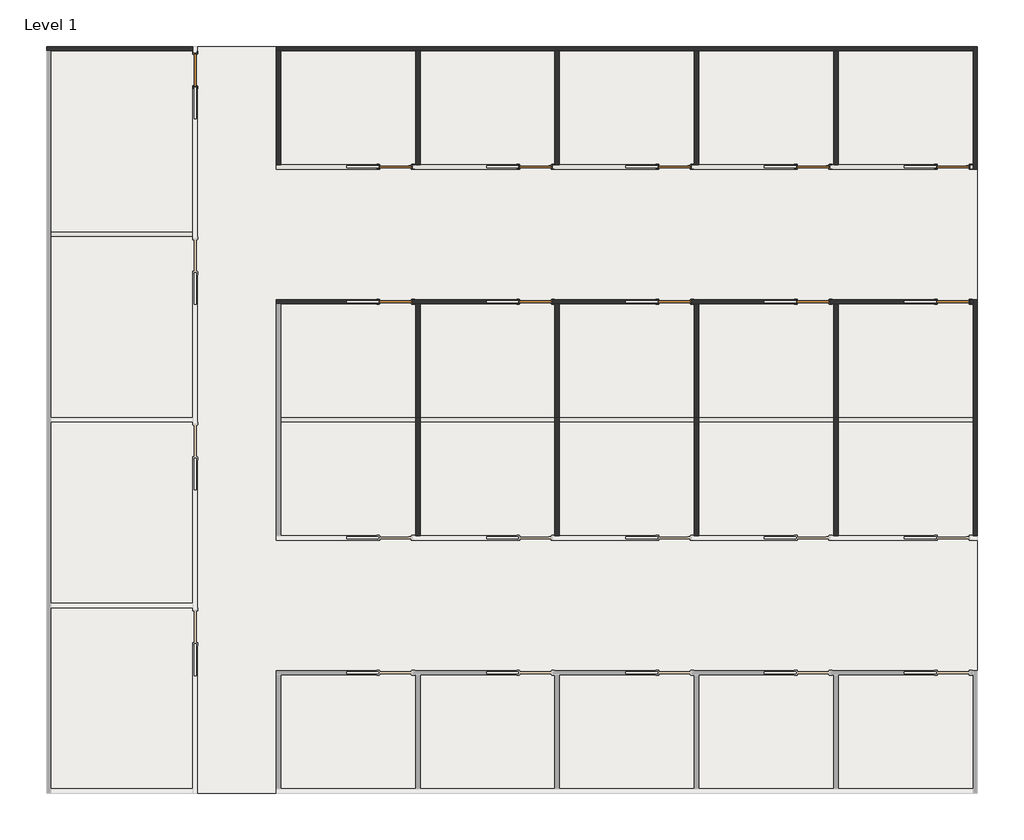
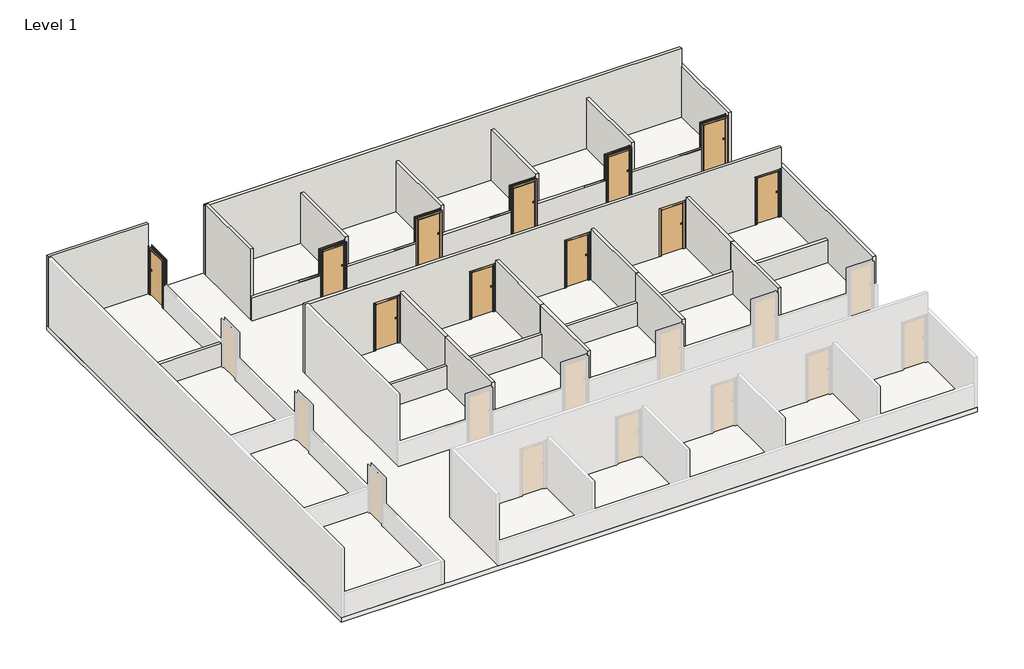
# One storey, part 2 of 2: 21 walls, 11 doors, 1 slab.
"""IFC4 building model written with IfcOpenShell, lengths in millimetres."""

from ifc_helpers import new_model, si_unit, frame, origin, origin_with_axes, place, context, project, spatial, polyline, outline, extrude, faceted_brep, transform, mapped, element, save
from components import door_cd230160, door_3eefad80

model = new_model("IFC4")

# Units and contexts
model_context = context("Model", 3, world=origin())
ifc_project = project(units=[si_unit("LENGTHUNIT", "METRE", prefix="MILLI")], contexts=[model_context])

# Site, building, storey
site = spatial("IfcSite", under=ifc_project)
building = spatial("IfcBuilding", under=site)
storey = spatial("IfcBuildingStorey", under=building, Name="Level 1", Elevation=0.0)

# Doors
placement = place(None, origin())
door_shape = door_cd230160(model_context)
element("IfcDoor", 1, ObjectType="DoorInternal_Barausse_Feel Plus Sliding wall-125+x : Int_Door_Barausse_Feel-Plus-Sliding_900x2000_Wall-125+x", at=placement, inside=storey, context=model_context, shape_type="MappedRepresentation", body=[
    mapped(door_shape, transform((-20299.5068022, 12818.8853962, 0.0), x_axis=(0.0, 1.0, 0.0), y_axis=(-1.0, 0.0, 0.0), z_axis=(0.0, 0.0, 1.0))),
])
element("IfcDoor", 2, ObjectType="DoorInternal_Barausse_Feel Plus Sliding wall-125+x : Int_Door_Barausse_Feel-Plus-Sliding_900x2000_Wall-125+x", at=placement, inside=storey, context=model_context, shape_type="MappedRepresentation", body=[
    mapped(door_shape, transform((-10714.5068022, 6293.8853962, 0.0), x_axis=(1.0, 0.0, 0.0), y_axis=(0.0, 1.0, 0.0), z_axis=(0.0, 0.0, 1.0))),
])
element("IfcDoor", 3, ObjectType="DoorInternal_Barausse_Feel Plus Sliding wall-125+x : Int_Door_Barausse_Feel-Plus-Sliding_900x2000_Wall-125+x", at=placement, inside=storey, context=model_context, shape_type="MappedRepresentation", body=[
    mapped(door_shape, transform((-6794.5068022, 6293.8853962, 0.0), x_axis=(1.0, 0.0, 0.0), y_axis=(0.0, 1.0, 0.0), z_axis=(0.0, 0.0, 1.0))),
])
element("IfcDoor", 4, ObjectType="DoorInternal_Barausse_Feel Plus Sliding wall-125+x : Int_Door_Barausse_Feel-Plus-Sliding_900x2000_Wall-125+x", at=placement, inside=storey, context=model_context, shape_type="MappedRepresentation", body=[
    mapped(door_shape, transform((1050.4931978, 6293.8853962, 0.0), x_axis=(1.0, 0.0, 0.0), y_axis=(0.0, 1.0, 0.0), z_axis=(0.0, 0.0, 1.0))),
])
element("IfcDoor", 5, ObjectType="DoorInternal_Barausse_Feel Plus Sliding wall-125+x : Int_Door_Barausse_Feel-Plus-Sliding_900x2000_Wall-125+x", at=placement, inside=storey, context=model_context, shape_type="MappedRepresentation", body=[
    mapped(door_shape, transform((-14654.5068022, 10093.8853962, 0.0), x_axis=(1.0, 0.0, 0.0), y_axis=(0.0, 1.0, 0.0), z_axis=(0.0, 0.0, 1.0))),
])
element("IfcDoor", 6, ObjectType="DoorInternal_Barausse_Feel Plus Sliding wall-125+x : Int_Door_Barausse_Feel-Plus-Sliding_900x2000_Wall-125+x", at=placement, inside=storey, context=model_context, shape_type="MappedRepresentation", body=[
    mapped(door_shape, transform((-10714.5068022, 10093.8853962, 0.0), x_axis=(1.0, 0.0, 0.0), y_axis=(0.0, 1.0, 0.0), z_axis=(0.0, 0.0, 1.0))),
])
element("IfcDoor", 7, ObjectType="DoorInternal_Barausse_Feel Plus Sliding wall-125+x : Int_Door_Barausse_Feel-Plus-Sliding_900x2000_Wall-125+x", at=placement, inside=storey, context=model_context, shape_type="MappedRepresentation", body=[
    mapped(door_shape, transform((-6794.5068022, 10093.8853962, 0.0), x_axis=(1.0, 0.0, 0.0), y_axis=(0.0, 1.0, 0.0), z_axis=(0.0, 0.0, 1.0))),
])
element("IfcDoor", 8, ObjectType="DoorInternal_Barausse_Feel Plus Sliding wall-125+x : Int_Door_Barausse_Feel-Plus-Sliding_900x2000_Wall-125+x", at=placement, inside=storey, context=model_context, shape_type="MappedRepresentation", body=[
    mapped(door_shape, transform((1050.4931978, 10093.8853962, 0.0), x_axis=(1.0, 0.0, 0.0), y_axis=(0.0, 1.0, 0.0), z_axis=(0.0, 0.0, 1.0))),
])
door_2_shape = door_3eefad80(model_context)
element("IfcDoor", 9, ObjectType="DoorInternal_Barausse_Feel Plus Sliding wall-125+x : Int_Door_Barausse_Feel-Plus-Sliding_900x2000_Wall-125+x", at=placement, inside=storey, context=model_context, shape_type="MappedRepresentation", body=[
    mapped(door_2_shape, transform((-14654.5068022, 6293.8853962, 0.0), x_axis=(1.0, 0.0, 0.0), y_axis=(0.0, 1.0, 0.0), z_axis=(0.0, 0.0, 1.0))),
])
element("IfcDoor", 10, ObjectType="DoorInternal_Barausse_Feel Plus Sliding wall-125+x : Int_Door_Barausse_Feel-Plus-Sliding_900x2000_Wall-125+x", at=placement, inside=storey, context=model_context, shape_type="MappedRepresentation", body=[
    mapped(door_2_shape, transform((-2894.5068022, 6293.8853962, 0.0), x_axis=(1.0, 0.0, 0.0), y_axis=(0.0, 1.0, 0.0), z_axis=(0.0, 0.0, 1.0))),
])
element("IfcDoor", 11, ObjectType="DoorInternal_Barausse_Feel Plus Sliding wall-125+x : Int_Door_Barausse_Feel-Plus-Sliding_900x2000_Wall-125+x", at=placement, inside=storey, context=model_context, shape_type="MappedRepresentation", body=[
    mapped(door_2_shape, transform((-2894.5068022, 10093.8853962, 0.0), x_axis=(1.0, 0.0, 0.0), y_axis=(0.0, 1.0, 0.0), z_axis=(0.0, 0.0, 1.0))),
])

# Slab
element("IfcSlab", 12, ObjectType="Floor 150mm", at=placement, inside=storey, context=model_context, shape_type="SweptSolid", body=[
    extrude(outline(polyline([(-24487.0068022, -7543.6146038), (-24487.0068022, 13481.3853962), (1732.9931978, 13481.3853962), (1732.9931978, -7543.6146038), (-24487.0068022, -7543.6146038)])), frame((0.0, 0.0, -200.0), z_axis=(0.0, 0.0, 1.0), x_axis=(1.0, 0.0, 0.0)), (0.0, 0.0, 1.0), 200.0),
])

# Walls
element("IfcWall", 13, ObjectType="Wall 125mm", at=placement, inside=storey, context=model_context, shape_type="SweptSolid", body=[
    extrude(outline(polyline([(-20362.0068022, 8131.3853962), (-24362.0068022, 8131.3853962), (-24362.0068022, 8256.3853962), (-20362.0068022, 8256.3853962), (-20362.0068022, 8131.3853962)])), origin_with_axes(), (0.0, 0.0, 1.0), 1000.0),
])
element("IfcWall", 14, ObjectType="Wall 125mm", at=placement, inside=storey, context=model_context, shape_type="Brep", body=[
    faceted_brep([(-24487.0068022, 13356.3853962, 0.0), (-24362.0068022, 13356.3853962, 0.0), (-20362.0068022, 13356.3853962, 0.0), (-20362.0068022, 13356.3853962, 3048.0), (-24487.0068022, 13356.3853962, 3048.0), (-24487.0068022, 13356.3853962, 3000.0), (-24487.0068022, 13481.3853962, 0.0), (-24487.0068022, 13481.3853962, 3048.0), (-20362.0068022, 13481.3853962, 3048.0), (-20362.0068022, 13481.3853962, 1000.0), (-20362.0068022, 13481.3853962, 0.0)], [[[0, 1, 2, 3, 4, 5]], [[6, 7, 8, 9, 10]], [[2, 1, 0, 6, 10]], [[4, 3, 8, 7]], [[0, 5, 4, 7, 6]], [[3, 2, 10, 9, 8]]]),
])
element("IfcWall", 15, ObjectType="Wall 125mm", at=placement, inside=storey, context=model_context, shape_type="Brep", body=[
    faceted_brep([(1607.9931978, 6231.3853962, 3000.0), (-18017.0068022, 6231.3853962, 3000.0), (-18017.0068022, 6231.3853962, 0.0), (-17892.0068022, 6231.3853962, 0.0), (-15131.0568022, 6231.3853962, 0.0), (-15131.0568022, 6231.3853962, 2035.2), (-14177.9568022, 6231.3853962, 2035.2), (-14177.9568022, 6231.3853962, 0.0), (-14092.0068022, 6231.3853962, 0.0), (-13967.0068022, 6231.3853962, 0.0), (-11191.0568022, 6231.3853962, 0.0), (-11191.0568022, 6231.3853962, 2035.2), (-10237.9568022, 6231.3853962, 2035.2), (-10237.9568022, 6231.3853962, 0.0), (-10167.0068022, 6231.3853962, 0.0), (-10042.0068022, 6231.3853962, 0.0), (-7271.0568022, 6231.3853962, 0.0), (-7271.0568022, 6231.3853962, 2035.2), (-6317.9568022, 6231.3853962, 2035.2), (-6317.9568022, 6231.3853962, 0.0), (-6242.0068022, 6231.3853962, 0.0), (-6117.0068022, 6231.3853962, 0.0), (-3371.0568022, 6231.3853962, 0.0), (-3371.0568022, 6231.3853962, 2035.2), (-2417.9568022, 6231.3853962, 2035.2), (-2417.9568022, 6231.3853962, 0.0), (-2317.0068022, 6231.3853962, 0.0), (-2192.0068022, 6231.3853962, 0.0), (573.9431978, 6231.3853962, 0.0), (573.9431978, 6231.3853962, 2035.2), (1527.0431978, 6231.3853962, 2035.2), (1527.0431978, 6231.3853962, 0.0), (1607.9931978, 6231.3853962, 0.0), (-18017.0068022, 6356.3853962, 3000.0), (1607.9931978, 6356.3853962, 3000.0), (1607.9931978, 6356.3853962, 2200.0), (1607.9931978, 6356.3853962, 0.0), (1527.0431978, 6356.3853962, 0.0), (1527.0431978, 6356.3853962, 2035.2), (573.9431978, 6356.3853962, 2035.2), (573.9431978, 6356.3853962, 0.0), (-2417.9568022, 6356.3853962, 0.0), (-2417.9568022, 6356.3853962, 2035.2), (-3371.0568022, 6356.3853962, 2035.2), (-3371.0568022, 6356.3853962, 0.0), (-6317.9568022, 6356.3853962, 0.0), (-6317.9568022, 6356.3853962, 2035.2), (-7271.0568022, 6356.3853962, 2035.2), (-7271.0568022, 6356.3853962, 0.0), (-10237.9568022, 6356.3853962, 0.0), (-10237.9568022, 6356.3853962, 2035.2), (-11191.0568022, 6356.3853962, 2035.2), (-11191.0568022, 6356.3853962, 0.0), (-14177.9568022, 6356.3853962, 0.0), (-14177.9568022, 6356.3853962, 2035.2), (-15131.0568022, 6356.3853962, 2035.2), (-15131.0568022, 6356.3853962, 0.0), (-18017.0068022, 6356.3853962, 0.0), (-15131.0568022, 6332.8853955, 0.0), (-16045.0568022, 6332.8853955, 0.0), (-16045.0568022, 6254.3853962, 0.0), (-15131.0568022, 6254.3853962, 0.0), (-11191.0568022, 6333.3853962, 0.0), (-12105.0568022, 6333.3853962, 0.0), (-12105.0568022, 6254.8853969, 0.0), (-11191.0568022, 6254.8853969, 0.0), (-7271.0568022, 6333.3853962, 0.0), (-8185.0568022, 6333.3853962, 0.0), (-8185.0568022, 6254.8853969, 0.0), (-7271.0568022, 6254.8853969, 0.0), (-3371.0568022, 6332.8853955, 0.0), (-4285.0568022, 6332.8853955, 0.0), (-4285.0568022, 6254.3853962, 0.0), (-3371.0568022, 6254.3853962, 0.0), (573.9431978, 6333.3853962, 0.0), (-340.0568022, 6333.3853962, 0.0), (-340.0568022, 6254.8853969, 0.0), (573.9431978, 6254.8853969, 0.0), (-16045.0568022, 6332.8853955, 2035.2), (-15131.0568022, 6332.8853955, 2035.2), (-15131.0568022, 6254.3853962, 2035.2), (-16045.0568022, 6254.3853962, 2035.2), (-11191.0568022, 6254.8853969, 2035.2), (-12105.0568022, 6254.8853969, 2035.2), (-12105.0568022, 6333.3853962, 2035.2), (-11191.0568022, 6333.3853962, 2035.2), (-7271.0568022, 6254.8853969, 2035.2), (-8185.0568022, 6254.8853969, 2035.2), (-8185.0568022, 6333.3853962, 2035.2), (-7271.0568022, 6333.3853962, 2035.2), (-4285.0568022, 6332.8853955, 2035.2), (-3371.0568022, 6332.8853955, 2035.2), (-3371.0568022, 6254.3853962, 2035.2), (-4285.0568022, 6254.3853962, 2035.2), (573.9431978, 6254.8853969, 2035.2), (-340.0568022, 6254.8853969, 2035.2), (-340.0568022, 6333.3853962, 2035.2), (573.9431978, 6333.3853962, 2035.2)], [[[0, 1, 2, 3, 4, 5, 6, 7, 8, 9, 10, 11, 12, 13, 14, 15, 16, 17, 18, 19, 20, 21, 22, 23, 24, 25, 26, 27, 28, 29, 30, 31, 32]], [[33, 34, 35, 36, 37, 38, 39, 40, 41, 42, 43, 44, 45, 46, 47, 48, 49, 50, 51, 52, 53, 54, 55, 56, 57]], [[36, 32, 31, 37]], [[2, 57, 56, 58, 59, 60, 61, 4, 3]], [[7, 53, 52, 62, 63, 64, 65, 10, 9, 8]], [[13, 49, 48, 66, 67, 68, 69, 16, 15, 14]], [[19, 45, 44, 70, 71, 72, 73, 22, 21, 20]], [[25, 41, 40, 74, 75, 76, 77, 28, 27, 26]], [[1, 0, 34, 33]], [[0, 32, 36, 35, 34]], [[2, 1, 33, 57]], [[78, 79, 55, 54, 6, 5, 80, 81]], [[81, 80, 61, 60]], [[78, 81, 60, 59]], [[79, 78, 59, 58]], [[55, 79, 58, 56]], [[6, 54, 53, 7]], [[80, 5, 4, 61]], [[82, 83, 84, 85, 51, 50, 12, 11]], [[85, 84, 63, 62]], [[84, 83, 64, 63]], [[83, 82, 65, 64]], [[82, 11, 10, 65]], [[12, 50, 49, 13]], [[51, 85, 62, 52]], [[86, 87, 88, 89, 47, 46, 18, 17]], [[89, 88, 67, 66]], [[88, 87, 68, 67]], [[87, 86, 69, 68]], [[86, 17, 16, 69]], [[18, 46, 45, 19]], [[47, 89, 66, 48]], [[90, 91, 43, 42, 24, 23, 92, 93]], [[93, 92, 73, 72]], [[90, 93, 72, 71]], [[91, 90, 71, 70]], [[43, 91, 70, 44]], [[24, 42, 41, 25]], [[92, 23, 22, 73]], [[94, 95, 96, 97, 39, 38, 30, 29]], [[97, 96, 75, 74]], [[96, 95, 76, 75]], [[95, 94, 77, 76]], [[94, 29, 28, 77]], [[30, 38, 37, 31]], [[39, 97, 74, 40]]]),
])
element("IfcWall", 16, ObjectType="Wall 125mm", at=placement, inside=storey, context=model_context, shape_type="Brep", body=[
    faceted_brep([(1607.9931978, 3031.3853962, 0.0), (-2192.0068022, 3031.3853962, 0.0), (-2317.0068022, 3031.3853962, 0.0), (-6117.0068022, 3031.3853962, 0.0), (-6242.0068022, 3031.3853962, 0.0), (-10042.0068022, 3031.3853962, 0.0), (-10167.0068022, 3031.3853962, 0.0), (-13967.0068022, 3031.3853962, 0.0), (-14092.0068022, 3031.3853962, 0.0), (-17892.0068022, 3031.3853962, 0.0), (-17892.0068022, 3031.3853962, 1000.0), (1607.9931978, 3031.3853962, 1000.0), (1607.9931978, 2906.3853962, 0.0), (1607.9931978, 2906.3853962, 1000.0), (-2192.0068022, 2906.3853962, 1000.0), (-2317.0068022, 2906.3853962, 1000.0), (-6117.0068022, 2906.3853962, 1000.0), (-6242.0068022, 2906.3853962, 1000.0), (-10042.0068022, 2906.3853962, 1000.0), (-10167.0068022, 2906.3853962, 1000.0), (-13967.0068022, 2906.3853962, 1000.0), (-14092.0068022, 2906.3853962, 1000.0), (-17892.0068022, 2906.3853962, 1000.0), (-17892.0068022, 2906.3853962, 0.0), (-14092.0068022, 2906.3853962, 0.0), (-13967.0068022, 2906.3853962, 0.0), (-10167.0068022, 2906.3853962, 0.0), (-10042.0068022, 2906.3853962, 0.0), (-6242.0068022, 2906.3853962, 0.0), (-6117.0068022, 2906.3853962, 0.0), (-2317.0068022, 2906.3853962, 0.0), (-2192.0068022, 2906.3853962, 0.0)], [[[0, 1, 2, 3, 4, 5, 6, 7, 8, 9, 10, 11]], [[12, 13, 14, 15, 16, 17, 18, 19, 20, 21, 22, 23, 24, 25, 26, 27, 28, 29, 30, 31]], [[9, 8, 7, 6, 5, 4, 3, 2, 1, 0, 12, 31, 30, 29, 28, 27, 26, 25, 24, 23]], [[11, 10, 22, 21, 20, 19, 18, 17, 16, 15, 14, 13]], [[10, 9, 23, 22]], [[0, 11, 13, 12]]]),
])
element("IfcWall", 17, ObjectType="Wall 125mm", at=placement, inside=storey, context=model_context, shape_type="Brep", body=[
    faceted_brep([(-13967.0068022, 3031.3853962, 2200.0), (-13967.0068022, 3031.3853962, 1000.0), (-13967.0068022, 3031.3853962, 0.0), (-13967.0068022, 6231.3853962, 0.0), (-13967.0068022, 6231.3853962, 2200.0), (-14092.0068022, 3031.3853962, 0.0), (-14092.0068022, 3031.3853962, 1000.0), (-14092.0068022, 3031.3853962, 2200.0), (-14092.0068022, 6231.3853962, 2200.0), (-14092.0068022, 6231.3853962, 0.0)], [[[0, 1, 2, 3, 4]], [[5, 6, 7, 8, 9]], [[3, 2, 5, 9]], [[0, 4, 8, 7]], [[0, 7, 6, 5, 2, 1]], [[4, 3, 9, 8]]]),
])
element("IfcWall", 18, ObjectType="Wall 125mm", at=placement, inside=storey, context=model_context, shape_type="Brep", body=[
    faceted_brep([(-10042.0068022, 3031.3853962, 2200.0), (-10042.0068022, 3031.3853962, 1000.0), (-10042.0068022, 3031.3853962, 0.0), (-10042.0068022, 6231.3853962, 0.0), (-10042.0068022, 6231.3853962, 2200.0), (-10167.0068022, 3031.3853962, 0.0), (-10167.0068022, 3031.3853962, 1000.0), (-10167.0068022, 3031.3853962, 2200.0), (-10167.0068022, 6231.3853962, 2200.0), (-10167.0068022, 6231.3853962, 0.0)], [[[0, 1, 2, 3, 4]], [[5, 6, 7, 8, 9]], [[3, 2, 5, 9]], [[0, 4, 8, 7]], [[0, 7, 6, 5, 2, 1]], [[4, 3, 9, 8]]]),
])
element("IfcWall", 19, ObjectType="Wall 125mm", at=placement, inside=storey, context=model_context, shape_type="Brep", body=[
    faceted_brep([(-6117.0068022, 3031.3853962, 2200.0), (-6117.0068022, 3031.3853962, 1000.0), (-6117.0068022, 3031.3853962, 0.0), (-6117.0068022, 6231.3853962, 0.0), (-6117.0068022, 6231.3853962, 2200.0), (-6242.0068022, 3031.3853962, 0.0), (-6242.0068022, 3031.3853962, 1000.0), (-6242.0068022, 3031.3853962, 2200.0), (-6242.0068022, 6231.3853962, 2200.0), (-6242.0068022, 6231.3853962, 0.0)], [[[0, 1, 2, 3, 4]], [[5, 6, 7, 8, 9]], [[3, 2, 5, 9]], [[0, 4, 8, 7]], [[0, 7, 6, 5, 2, 1]], [[4, 3, 9, 8]]]),
])
element("IfcWall", 20, ObjectType="Wall 125mm", at=placement, inside=storey, context=model_context, shape_type="Brep", body=[
    faceted_brep([(1607.9931978, 6356.3853962, 0.0), (1607.9931978, 6231.3853962, 0.0), (1607.9931978, 3031.3853962, 0.0), (1607.9931978, 2906.3853962, 0.0), (1607.9931978, -293.1146038, 0.0), (1607.9931978, -293.1146038, 2200.0), (1607.9931978, 6356.3853962, 2200.0), (1732.9931978, 6356.3853962, 0.0), (1732.9931978, 6356.3853962, 2200.0), (1732.9931978, -293.1146038, 2200.0), (1732.9931978, -293.1146038, 1000.0), (1732.9931978, -293.1146038, 0.0)], [[[0, 1, 2, 3, 4, 5, 6]], [[7, 8, 9, 10, 11]], [[4, 3, 2, 1, 0, 7, 11]], [[6, 5, 9, 8]], [[0, 6, 8, 7]], [[5, 4, 11, 10, 9]]]),
])
element("IfcWall", 21, ObjectType="Wall 125mm", at=placement, inside=storey, context=model_context, shape_type="Brep", body=[
    faceted_brep([(-2192.0068022, 3031.3853962, 2200.0), (-2192.0068022, 3031.3853962, 1000.0), (-2192.0068022, 3031.3853962, 0.0), (-2192.0068022, 6231.3853962, 0.0), (-2192.0068022, 6231.3853962, 2200.0), (-2317.0068022, 3031.3853962, 0.0), (-2317.0068022, 3031.3853962, 1000.0), (-2317.0068022, 3031.3853962, 2200.0), (-2317.0068022, 6231.3853962, 2200.0), (-2317.0068022, 6231.3853962, 0.0)], [[[0, 1, 2, 3, 4]], [[5, 6, 7, 8, 9]], [[3, 2, 5, 9]], [[0, 4, 8, 7]], [[0, 7, 6, 5, 2, 1]], [[4, 3, 9, 8]]]),
])
element("IfcWall", 22, ObjectType="Wall 125mm", at=placement, inside=storey, context=model_context, shape_type="SweptSolid", body=[
    extrude(outline(polyline([(-293.1146038, 0.0), (-293.1146038, 2200.0), (3031.3853962, 2200.0), (3031.3853962, 1000.0), (2906.3853962, 1000.0), (2906.3853962, 0.0), (-293.1146038, 0.0)])), frame((-14092.0068022, 0.0, 0.0), z_axis=(1.0, 0.0, 0.0), x_axis=(0.0, 1.0, 0.0)), (0.0, 0.0, 1.0), 125.0),
])
element("IfcWall", 23, ObjectType="Wall 125mm", at=placement, inside=storey, context=model_context, shape_type="SweptSolid", body=[
    extrude(outline(polyline([(-293.1146038, 0.0), (-293.1146038, 2200.0), (3031.3853962, 2200.0), (3031.3853962, 1000.0), (2906.3853962, 1000.0), (2906.3853962, 0.0), (-293.1146038, 0.0)])), frame((-10167.0068022, 0.0, 0.0), z_axis=(1.0, 0.0, 0.0), x_axis=(0.0, 1.0, 0.0)), (0.0, 0.0, 1.0), 125.0),
])
element("IfcWall", 24, ObjectType="Wall 125mm", at=placement, inside=storey, context=model_context, shape_type="SweptSolid", body=[
    extrude(outline(polyline([(-293.1146038, 0.0), (-293.1146038, 2200.0), (3031.3853962, 2200.0), (3031.3853962, 1000.0), (2906.3853962, 1000.0), (2906.3853962, 0.0), (-293.1146038, 0.0)])), frame((-6242.0068022, 0.0, 0.0), z_axis=(1.0, 0.0, 0.0), x_axis=(0.0, 1.0, 0.0)), (0.0, 0.0, 1.0), 125.0),
])
element("IfcWall", 25, ObjectType="Wall 125mm", at=placement, inside=storey, context=model_context, shape_type="SweptSolid", body=[
    extrude(outline(polyline([(-293.1146038, 0.0), (-293.1146038, 2200.0), (3031.3853962, 2200.0), (3031.3853962, 1000.0), (2906.3853962, 1000.0), (2906.3853962, 0.0), (-293.1146038, 0.0)])), frame((-2317.0068022, 0.0, 0.0), z_axis=(1.0, 0.0, 0.0), x_axis=(0.0, 1.0, 0.0)), (0.0, 0.0, 1.0), 125.0),
])
element("IfcWall", 26, ObjectType="Wall 125mm", at=placement, inside=storey, context=model_context, shape_type="Brep", body=[
    faceted_brep([(-18017.0068022, 10031.3853962, 1000.0), (-18017.0068022, 10031.3853962, 0.0), (-15131.0568022, 10031.3853962, 0.0), (-15131.0568022, 10031.3853962, 1000.0), (-18017.0068022, 10156.3853962, 0.0), (-18017.0068022, 10156.3853962, 1000.0), (-15131.0568022, 10156.3853962, 1000.0), (-15131.0568022, 10156.3853962, 0.0), (-17892.0068022, 10156.3853962, 0.0), (-15131.0568022, 10133.3853962, 0.0), (-16045.0568022, 10133.3853962, 0.0), (-16045.0568022, 10054.8853969, 0.0), (-15131.0568022, 10054.8853969, 0.0), (-15131.0568022, 10054.8853969, 1000.0), (-16045.0568022, 10054.8853969, 1000.0), (-16045.0568022, 10133.3853962, 1000.0), (-15131.0568022, 10133.3853962, 1000.0)], [[[0, 1, 2, 3]], [[4, 5, 6, 7, 8]], [[1, 4, 8, 7, 9, 10, 11, 12, 2]], [[5, 0, 3, 13, 14, 15, 16, 6]], [[1, 0, 5, 4]], [[10, 9, 16, 15]], [[11, 10, 15, 14]], [[12, 11, 14, 13]], [[3, 2, 12, 13]], [[7, 6, 16, 9]]]),
    faceted_brep([(1607.9931978, 10031.3853962, 0.0), (1607.9931978, 10031.3853962, 1000.0), (1527.0431978, 10031.3853962, 1000.0), (1527.0431978, 10031.3853962, 0.0), (1607.9931978, 10156.3853962, 1000.0), (1607.9931978, 10156.3853962, 0.0), (1527.0431978, 10156.3853962, 0.0), (1527.0431978, 10156.3853962, 1000.0)], [[[0, 1, 2, 3]], [[4, 5, 6, 7]], [[5, 0, 3, 6]], [[1, 4, 7, 2]], [[1, 0, 5, 4]], [[3, 2, 7, 6]]]),
    faceted_brep([(-14177.9568022, 10031.3853962, 1000.0), (-14177.9568022, 10031.3853962, 0.0), (-11191.0568022, 10031.3853962, 0.0), (-11191.0568022, 10031.3853962, 1000.0), (-14177.9568022, 10156.3853962, 0.0), (-14177.9568022, 10156.3853962, 1000.0), (-11191.0568022, 10156.3853962, 1000.0), (-11191.0568022, 10156.3853962, 0.0), (-13967.0068022, 10156.3853962, 0.0), (-14092.0068022, 10156.3853962, 0.0), (-11191.0568022, 10133.3853962, 0.0), (-12105.0568022, 10133.3853962, 0.0), (-12105.0568022, 10054.8853969, 0.0), (-11191.0568022, 10054.8853969, 0.0), (-11191.0568022, 10054.8853969, 1000.0), (-12105.0568022, 10054.8853969, 1000.0), (-12105.0568022, 10133.3853962, 1000.0), (-11191.0568022, 10133.3853962, 1000.0)], [[[0, 1, 2, 3]], [[4, 5, 6, 7, 8, 9]], [[1, 4, 9, 8, 7, 10, 11, 12, 13, 2]], [[5, 0, 3, 14, 15, 16, 17, 6]], [[1, 0, 5, 4]], [[11, 10, 17, 16]], [[12, 11, 16, 15]], [[13, 12, 15, 14]], [[3, 2, 13, 14]], [[7, 6, 17, 10]]]),
    faceted_brep([(-10237.9568022, 10031.3853962, 1000.0), (-10237.9568022, 10031.3853962, 0.0), (-7271.0568022, 10031.3853962, 0.0), (-7271.0568022, 10031.3853962, 1000.0), (-10237.9568022, 10156.3853962, 0.0), (-10237.9568022, 10156.3853962, 1000.0), (-7271.0568022, 10156.3853962, 1000.0), (-7271.0568022, 10156.3853962, 0.0), (-10042.0068022, 10156.3853962, 0.0), (-10167.0068022, 10156.3853962, 0.0), (-7271.0568022, 10133.3853962, 0.0), (-8185.0568022, 10133.3853962, 0.0), (-8185.0568022, 10054.8853969, 0.0), (-7271.0568022, 10054.8853969, 0.0), (-7271.0568022, 10054.8853969, 1000.0), (-8185.0568022, 10054.8853969, 1000.0), (-8185.0568022, 10133.3853962, 1000.0), (-7271.0568022, 10133.3853962, 1000.0)], [[[0, 1, 2, 3]], [[4, 5, 6, 7, 8, 9]], [[1, 4, 9, 8, 7, 10, 11, 12, 13, 2]], [[5, 0, 3, 14, 15, 16, 17, 6]], [[1, 0, 5, 4]], [[11, 10, 17, 16]], [[12, 11, 16, 15]], [[13, 12, 15, 14]], [[3, 2, 13, 14]], [[7, 6, 17, 10]]]),
    faceted_brep([(-6317.9568022, 10031.3853962, 1000.0), (-6317.9568022, 10031.3853962, 0.0), (-3371.0568022, 10031.3853962, 0.0), (-3371.0568022, 10031.3853962, 1000.0), (-6317.9568022, 10156.3853962, 0.0), (-6317.9568022, 10156.3853962, 1000.0), (-3371.0568022, 10156.3853962, 1000.0), (-3371.0568022, 10156.3853962, 0.0), (-6117.0068022, 10156.3853962, 0.0), (-6242.0068022, 10156.3853962, 0.0), (-3371.0568022, 10132.8853955, 0.0), (-4285.0568022, 10132.8853955, 0.0), (-4285.0568022, 10054.3853962, 0.0), (-3371.0568022, 10054.3853962, 0.0), (-3371.0568022, 10054.3853962, 1000.0), (-4285.0568022, 10054.3853962, 1000.0), (-4285.0568022, 10132.8853955, 1000.0), (-3371.0568022, 10132.8853955, 1000.0)], [[[0, 1, 2, 3]], [[4, 5, 6, 7, 8, 9]], [[1, 4, 9, 8, 7, 10, 11, 12, 13, 2]], [[5, 0, 3, 14, 15, 16, 17, 6]], [[1, 0, 5, 4]], [[13, 12, 15, 14]], [[12, 11, 16, 15]], [[11, 10, 17, 16]], [[7, 6, 17, 10]], [[3, 2, 13, 14]]]),
    faceted_brep([(-2417.9568022, 10031.3853962, 1000.0), (-2417.9568022, 10031.3853962, 0.0), (573.9431978, 10031.3853962, 0.0), (573.9431978, 10031.3853962, 1000.0), (-2417.9568022, 10156.3853962, 0.0), (-2417.9568022, 10156.3853962, 1000.0), (573.9431978, 10156.3853962, 1000.0), (573.9431978, 10156.3853962, 0.0), (-2192.0068022, 10156.3853962, 0.0), (-2317.0068022, 10156.3853962, 0.0), (573.9431978, 10133.3853962, 0.0), (-340.0568022, 10133.3853962, 0.0), (-340.0568022, 10054.8853969, 0.0), (573.9431978, 10054.8853969, 0.0), (573.9431978, 10054.8853969, 1000.0), (-340.0568022, 10054.8853969, 1000.0), (-340.0568022, 10133.3853962, 1000.0), (573.9431978, 10133.3853962, 1000.0)], [[[0, 1, 2, 3]], [[4, 5, 6, 7, 8, 9]], [[1, 4, 9, 8, 7, 10, 11, 12, 13, 2]], [[5, 0, 3, 14, 15, 16, 17, 6]], [[1, 0, 5, 4]], [[10, 17, 16, 11]], [[11, 16, 15, 12]], [[12, 15, 14, 13]], [[13, 14, 3, 2]], [[17, 10, 7, 6]]]),
])
element("IfcWall", 27, ObjectType="Wall 125mm", at=placement, inside=storey, context=model_context, shape_type="Brep", body=[
    faceted_brep([(1607.9931978, 13481.3853962, 0.0), (-18017.0068022, 13481.3853962, 0.0), (-18017.0068022, 13481.3853962, 3000.0), (1607.9931978, 13481.3853962, 3000.0), (1607.9931978, 13481.3853962, 2200.0), (1607.9931978, 13356.3853962, 0.0), (1607.9931978, 13356.3853962, 3000.0), (-18017.0068022, 13356.3853962, 3000.0), (-18017.0068022, 13356.3853962, 0.0), (-17892.0068022, 13356.3853962, 0.0), (-14092.0068022, 13356.3853962, 0.0), (-13967.0068022, 13356.3853962, 0.0), (-10167.0068022, 13356.3853962, 0.0), (-10042.0068022, 13356.3853962, 0.0), (-6242.0068022, 13356.3853962, 0.0), (-6117.0068022, 13356.3853962, 0.0), (-2317.0068022, 13356.3853962, 0.0), (-2192.0068022, 13356.3853962, 0.0)], [[[0, 1, 2, 3, 4]], [[5, 6, 7, 8, 9, 10, 11, 12, 13, 14, 15, 16, 17]], [[1, 0, 5, 17, 16, 15, 14, 13, 12, 11, 10, 9, 8]], [[3, 2, 7, 6]], [[2, 1, 8, 7]], [[0, 4, 3, 6, 5]]]),
])
element("IfcWall", 28, ObjectType="Wall 125mm", at=placement, inside=storey, context=model_context, shape_type="Brep", body=[
    faceted_brep([(-18017.0068022, 13356.3853962, 0.0), (-18017.0068022, 10156.3853962, 0.0), (-18017.0068022, 10156.3853962, 1000.0), (-18017.0068022, 10156.3853962, 3048.0), (-18017.0068022, 13356.3853962, 3048.0), (-18017.0068022, 13356.3853962, 3000.0), (-17892.0068022, 13356.3853962, 0.0), (-17892.0068022, 13356.3853962, 3048.0), (-17892.0068022, 10156.3853962, 3048.0), (-17892.0068022, 10156.3853962, 0.0)], [[[0, 1, 2, 3, 4, 5]], [[6, 7, 8, 9]], [[1, 0, 6, 9]], [[4, 3, 8, 7]], [[3, 2, 1, 9, 8]], [[0, 5, 4, 7, 6]]]),
])
element("IfcWall", 29, ObjectType="Wall 125mm", at=placement, inside=storey, context=model_context, shape_type="SweptSolid", body=[
    extrude(outline(polyline([(-14092.0068022, 10156.3853962), (-14092.0068022, 13356.3853962), (-13967.0068022, 13356.3853962), (-13967.0068022, 10156.3853962), (-14092.0068022, 10156.3853962)])), origin_with_axes(), (0.0, 0.0, 1.0), 2200.0),
])
element("IfcWall", 30, ObjectType="Wall 125mm", at=placement, inside=storey, context=model_context, shape_type="SweptSolid", body=[
    extrude(outline(polyline([(-10167.0068022, 10156.3853962), (-10167.0068022, 13356.3853962), (-10042.0068022, 13356.3853962), (-10042.0068022, 10156.3853962), (-10167.0068022, 10156.3853962)])), origin_with_axes(), (0.0, 0.0, 1.0), 2200.0),
])
element("IfcWall", 31, ObjectType="Wall 125mm", at=placement, inside=storey, context=model_context, shape_type="SweptSolid", body=[
    extrude(outline(polyline([(-6242.0068022, 10156.3853962), (-6242.0068022, 13356.3853962), (-6117.0068022, 13356.3853962), (-6117.0068022, 10156.3853962), (-6242.0068022, 10156.3853962)])), origin_with_axes(), (0.0, 0.0, 1.0), 2200.0),
])
element("IfcWall", 32, ObjectType="Wall 125mm", at=placement, inside=storey, context=model_context, shape_type="Brep", body=[
    faceted_brep([(1732.9931978, 10031.3853962, 0.0), (1732.9931978, 13481.3853962, 0.0), (1732.9931978, 13481.3853962, 2200.0), (1732.9931978, 10031.3853962, 2200.0), (1607.9931978, 10031.3853962, 0.0), (1607.9931978, 10031.3853962, 1000.0), (1607.9931978, 10031.3853962, 2200.0), (1607.9931978, 13481.3853962, 2200.0), (1607.9931978, 13481.3853962, 0.0), (1607.9931978, 13356.3853962, 0.0), (1607.9931978, 10156.3853962, 0.0)], [[[0, 1, 2, 3]], [[4, 5, 6, 7, 8, 9, 10]], [[1, 0, 4, 10, 9, 8]], [[3, 2, 7, 6]], [[0, 3, 6, 5, 4]], [[2, 1, 8, 7]]]),
])
element("IfcWall", 33, ObjectType="Wall 125mm", at=placement, inside=storey, context=model_context, shape_type="SweptSolid", body=[
    extrude(outline(polyline([(-2317.0068022, 10156.3853962), (-2317.0068022, 13356.3853962), (-2192.0068022, 13356.3853962), (-2192.0068022, 10156.3853962), (-2317.0068022, 10156.3853962)])), origin_with_axes(), (0.0, 0.0, 1.0), 2200.0),
])

save(model, "model.ifc")
